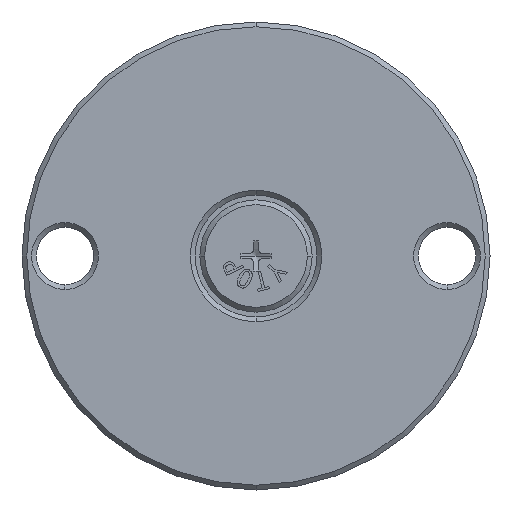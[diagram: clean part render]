
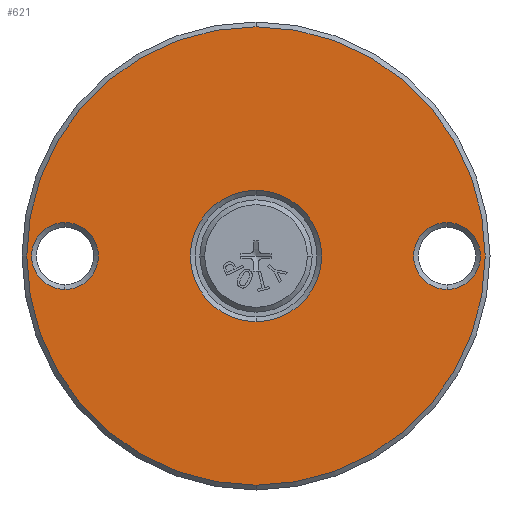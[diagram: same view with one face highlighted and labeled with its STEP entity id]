
A CAD part, front view. The second image highlights one B-rep face of the part: STEP entity #621.
In plain terms, the highlighted planar face has unit normal (0, -1, 0).
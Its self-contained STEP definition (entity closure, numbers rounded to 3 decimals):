
#35 = VERTEX_POINT ( 'NONE', #1670 ) ;
#90 = ORIENTED_EDGE ( 'NONE', *, *, #7330, .T. ) ;
#414 = CARTESIAN_POINT ( 'NONE',  ( -40., 0., 7. ) ) ;
#508 = DIRECTION ( 'NONE',  ( 0., 1., 0. ) ) ;
#556 = DIRECTION ( 'NONE',  ( 0., 0., 1. ) ) ;
#621 = ADVANCED_FACE ( 'NONE', ( #7413, #2106, #1181, #2010 ), #6009, .F. ) ;
#640 = VERTEX_POINT ( 'NONE', #7567 ) ;
#662 = DIRECTION ( 'NONE',  ( 0., 1., 0. ) ) ;
#902 = AXIS2_PLACEMENT_3D ( 'NONE', #5182, #5845, #556 ) ;
#1052 = AXIS2_PLACEMENT_3D ( 'NONE', #1243, #5128, #2541 ) ;
#1181 = FACE_OUTER_BOUND ( 'NONE', #8162, .T. ) ;
#1243 = CARTESIAN_POINT ( 'NONE',  ( -40., 0., 0. ) ) ;
#1306 = EDGE_CURVE ( 'NONE', #8367, #4512, #7417, .T. ) ;
#1415 = VERTEX_POINT ( 'NONE', #7264 ) ;
#1670 = CARTESIAN_POINT ( 'NONE',  ( 40., 0., -7. ) ) ;
#1726 = CARTESIAN_POINT ( 'NONE',  ( 0., 0., 13.75 ) ) ;
#1758 = EDGE_CURVE ( 'NONE', #5392, #640, #3309, .T. ) ;
#1806 = AXIS2_PLACEMENT_3D ( 'NONE', #5222, #3887, #4543 ) ;
#2010 = FACE_BOUND ( 'NONE', #8035, .T. ) ;
#2106 = FACE_BOUND ( 'NONE', #3279, .T. ) ;
#2139 = ORIENTED_EDGE ( 'NONE', *, *, #2507, .T. ) ;
#2346 = CARTESIAN_POINT ( 'NONE',  ( 40., 0., 0. ) ) ;
#2462 = AXIS2_PLACEMENT_3D ( 'NONE', #2346, #8272, #3648 ) ;
#2507 = EDGE_CURVE ( 'NONE', #7530, #1415, #5034, .T. ) ;
#2541 = DIRECTION ( 'NONE',  ( 0., 0., 1. ) ) ;
#2729 = DIRECTION ( 'NONE',  ( 0., 1., 0. ) ) ;
#3064 = AXIS2_PLACEMENT_3D ( 'NONE', #3828, #662, #7173 ) ;
#3081 = AXIS2_PLACEMENT_3D ( 'NONE', #7285, #2729, #4002 ) ;
#3170 = DIRECTION ( 'NONE',  ( 0., 0., 1. ) ) ;
#3279 = EDGE_LOOP ( 'NONE', ( #3352, #5658 ) ) ;
#3309 = CIRCLE ( 'NONE', #1806, 48. ) ;
#3352 = ORIENTED_EDGE ( 'NONE', *, *, #1306, .T. ) ;
#3431 = CARTESIAN_POINT ( 'NONE',  ( 40., 0., 7. ) ) ;
#3648 = DIRECTION ( 'NONE',  ( 0., 0., 1. ) ) ;
#3726 = AXIS2_PLACEMENT_3D ( 'NONE', #6647, #5375, #6683 ) ;
#3828 = CARTESIAN_POINT ( 'NONE',  ( 40., 0., 0. ) ) ;
#3887 = DIRECTION ( 'NONE',  ( 0., -1., 0. ) ) ;
#3898 = EDGE_CURVE ( 'NONE', #1415, #7530, #4262, .T. ) ;
#3907 = EDGE_CURVE ( 'NONE', #4512, #8367, #4574, .T. ) ;
#4002 = DIRECTION ( 'NONE',  ( 0., 0., 1. ) ) ;
#4262 = CIRCLE ( 'NONE', #902, 13.75 ) ;
#4278 = CARTESIAN_POINT ( 'NONE',  ( -40., 0., -7. ) ) ;
#4482 = CIRCLE ( 'NONE', #2462, 7. ) ;
#4512 = VERTEX_POINT ( 'NONE', #414 ) ;
#4543 = DIRECTION ( 'NONE',  ( 0., 0., 1. ) ) ;
#4574 = CIRCLE ( 'NONE', #1052, 7. ) ;
#4646 = AXIS2_PLACEMENT_3D ( 'NONE', #5190, #7736, #3170 ) ;
#5034 = CIRCLE ( 'NONE', #7582, 13.75 ) ;
#5128 = DIRECTION ( 'NONE',  ( 0., 1., 0. ) ) ;
#5182 = CARTESIAN_POINT ( 'NONE',  ( 0., 0., 0. ) ) ;
#5190 = CARTESIAN_POINT ( 'NONE',  ( 0., 0., 0. ) ) ;
#5222 = CARTESIAN_POINT ( 'NONE',  ( 0., 0., 0. ) ) ;
#5276 = CIRCLE ( 'NONE', #4646, 48. ) ;
#5375 = DIRECTION ( 'NONE',  ( 0., 1., 0. ) ) ;
#5392 = VERTEX_POINT ( 'NONE', #7456 ) ;
#5658 = ORIENTED_EDGE ( 'NONE', *, *, #3907, .T. ) ;
#5742 = CIRCLE ( 'NONE', #3064, 7. ) ;
#5845 = DIRECTION ( 'NONE',  ( 0., 1., 0. ) ) ;
#6009 = PLANE ( 'NONE',  #3726 ) ;
#6297 = EDGE_CURVE ( 'NONE', #640, #5392, #5276, .T. ) ;
#6512 = ORIENTED_EDGE ( 'NONE', *, *, #3898, .T. ) ;
#6647 = CARTESIAN_POINT ( 'NONE',  ( 49., 0., 0. ) ) ;
#6683 = DIRECTION ( 'NONE',  ( 0., 0., 1. ) ) ;
#6686 = EDGE_CURVE ( 'NONE', #35, #8185, #4482, .T. ) ;
#6841 = ORIENTED_EDGE ( 'NONE', *, *, #6297, .T. ) ;
#7173 = DIRECTION ( 'NONE',  ( 0., 0., 1. ) ) ;
#7264 = CARTESIAN_POINT ( 'NONE',  ( 0., 0., -13.75 ) ) ;
#7285 = CARTESIAN_POINT ( 'NONE',  ( -40., 0., 0. ) ) ;
#7330 = EDGE_CURVE ( 'NONE', #8185, #35, #5742, .T. ) ;
#7369 = EDGE_LOOP ( 'NONE', ( #7406, #90 ) ) ;
#7406 = ORIENTED_EDGE ( 'NONE', *, *, #6686, .T. ) ;
#7413 = FACE_BOUND ( 'NONE', #7369, .T. ) ;
#7417 = CIRCLE ( 'NONE', #3081, 7. ) ;
#7456 = CARTESIAN_POINT ( 'NONE',  ( 0., 0., 48. ) ) ;
#7530 = VERTEX_POINT ( 'NONE', #1726 ) ;
#7567 = CARTESIAN_POINT ( 'NONE',  ( 0., 0., -48. ) ) ;
#7582 = AXIS2_PLACEMENT_3D ( 'NONE', #7705, #508, #7672 ) ;
#7619 = ORIENTED_EDGE ( 'NONE', *, *, #1758, .T. ) ;
#7672 = DIRECTION ( 'NONE',  ( 0., 0., 1. ) ) ;
#7705 = CARTESIAN_POINT ( 'NONE',  ( 0., 0., 0. ) ) ;
#7736 = DIRECTION ( 'NONE',  ( 0., -1., 0. ) ) ;
#8035 = EDGE_LOOP ( 'NONE', ( #6512, #2139 ) ) ;
#8162 = EDGE_LOOP ( 'NONE', ( #7619, #6841 ) ) ;
#8185 = VERTEX_POINT ( 'NONE', #3431 ) ;
#8272 = DIRECTION ( 'NONE',  ( 0., 1., 0. ) ) ;
#8367 = VERTEX_POINT ( 'NONE', #4278 ) ;
